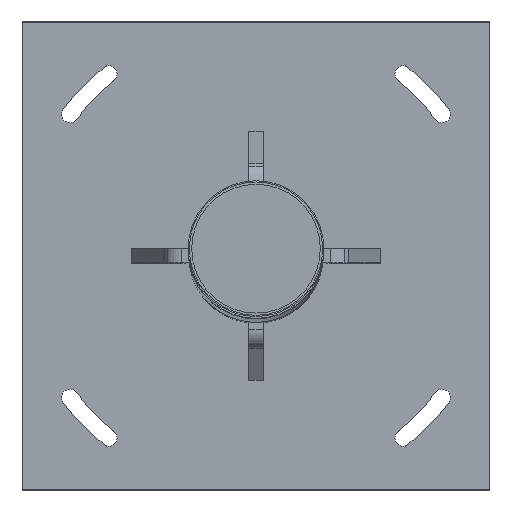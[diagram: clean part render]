
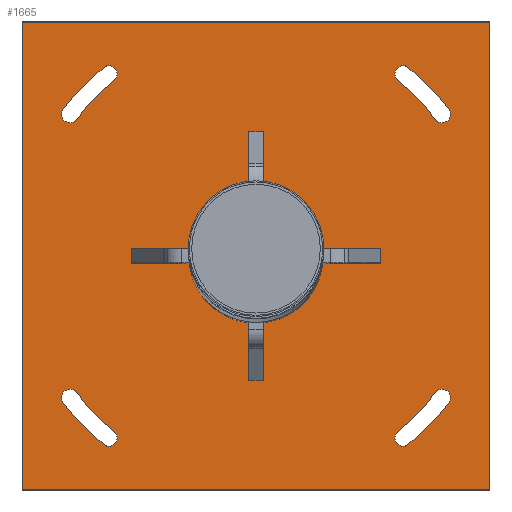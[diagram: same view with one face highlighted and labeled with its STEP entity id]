
A CAD part, top view. The second image highlights one B-rep face of the part: STEP entity #1665.
In plain terms, the highlighted planar face has unit normal (0, 0, 1).
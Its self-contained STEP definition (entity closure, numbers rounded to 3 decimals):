
#107=FACE_BOUND('',#300,.T.);
#108=FACE_BOUND('',#301,.T.);
#109=FACE_BOUND('',#302,.T.);
#110=FACE_BOUND('',#303,.T.);
#111=FACE_BOUND('',#304,.T.);
#125=PLANE('',#1825);
#194=FACE_OUTER_BOUND('',#299,.T.);
#299=EDGE_LOOP('',(#1213,#1214,#1215,#1216));
#300=EDGE_LOOP('',(#1217));
#301=EDGE_LOOP('',(#1218,#1219,#1220,#1221));
#302=EDGE_LOOP('',(#1222,#1223,#1224,#1225));
#303=EDGE_LOOP('',(#1226,#1227,#1228,#1229));
#304=EDGE_LOOP('',(#1230,#1231,#1232,#1233));
#416=LINE('',#2427,#553);
#419=LINE('',#2433,#556);
#422=LINE('',#2439,#559);
#425=LINE('',#2443,#562);
#553=VECTOR('',#2031,10.);
#556=VECTOR('',#2036,10.);
#559=VECTOR('',#2041,10.);
#562=VECTOR('',#2046,10.);
#671=CIRCLE('',#1771,207.);
#673=CIRCLE('',#1774,7.25);
#675=CIRCLE('',#1777,192.841);
#677=CIRCLE('',#1780,7.25);
#679=CIRCLE('',#1783,207.);
#681=CIRCLE('',#1786,7.25);
#683=CIRCLE('',#1789,192.841);
#685=CIRCLE('',#1792,7.25);
#687=CIRCLE('',#1795,207.);
#689=CIRCLE('',#1798,7.25);
#691=CIRCLE('',#1801,192.841);
#693=CIRCLE('',#1804,7.25);
#695=CIRCLE('',#1807,207.);
#697=CIRCLE('',#1810,7.25);
#699=CIRCLE('',#1813,192.841);
#701=CIRCLE('',#1816,7.25);
#703=CIRCLE('',#1819,50.);
#726=VERTEX_POINT('',#2319);
#727=VERTEX_POINT('',#2320);
#730=VERTEX_POINT('',#2328);
#732=VERTEX_POINT('',#2334);
#734=VERTEX_POINT('',#2343);
#735=VERTEX_POINT('',#2344);
#738=VERTEX_POINT('',#2352);
#740=VERTEX_POINT('',#2358);
#742=VERTEX_POINT('',#2367);
#743=VERTEX_POINT('',#2368);
#746=VERTEX_POINT('',#2376);
#748=VERTEX_POINT('',#2382);
#750=VERTEX_POINT('',#2391);
#751=VERTEX_POINT('',#2392);
#754=VERTEX_POINT('',#2400);
#756=VERTEX_POINT('',#2406);
#758=VERTEX_POINT('',#2415);
#762=VERTEX_POINT('',#2424);
#763=VERTEX_POINT('',#2426);
#765=VERTEX_POINT('',#2432);
#767=VERTEX_POINT('',#2438);
#885=EDGE_CURVE('',#726,#727,#671,.T.);
#889=EDGE_CURVE('',#727,#730,#673,.T.);
#892=EDGE_CURVE('',#730,#732,#675,.T.);
#895=EDGE_CURVE('',#732,#726,#677,.T.);
#897=EDGE_CURVE('',#734,#735,#679,.T.);
#901=EDGE_CURVE('',#735,#738,#681,.T.);
#904=EDGE_CURVE('',#738,#740,#683,.T.);
#907=EDGE_CURVE('',#740,#734,#685,.T.);
#909=EDGE_CURVE('',#742,#743,#687,.T.);
#913=EDGE_CURVE('',#743,#746,#689,.T.);
#916=EDGE_CURVE('',#746,#748,#691,.T.);
#919=EDGE_CURVE('',#748,#742,#693,.T.);
#921=EDGE_CURVE('',#750,#751,#695,.T.);
#925=EDGE_CURVE('',#751,#754,#697,.T.);
#928=EDGE_CURVE('',#754,#756,#699,.T.);
#931=EDGE_CURVE('',#756,#750,#701,.T.);
#933=EDGE_CURVE('',#758,#758,#703,.T.);
#938=EDGE_CURVE('',#763,#762,#416,.T.);
#941=EDGE_CURVE('',#765,#763,#419,.T.);
#944=EDGE_CURVE('',#767,#765,#422,.T.);
#947=EDGE_CURVE('',#762,#767,#425,.T.);
#1213=ORIENTED_EDGE('',*,*,#947,.T.);
#1214=ORIENTED_EDGE('',*,*,#944,.T.);
#1215=ORIENTED_EDGE('',*,*,#941,.T.);
#1216=ORIENTED_EDGE('',*,*,#938,.T.);
#1217=ORIENTED_EDGE('',*,*,#933,.T.);
#1218=ORIENTED_EDGE('',*,*,#928,.T.);
#1219=ORIENTED_EDGE('',*,*,#931,.T.);
#1220=ORIENTED_EDGE('',*,*,#921,.T.);
#1221=ORIENTED_EDGE('',*,*,#925,.T.);
#1222=ORIENTED_EDGE('',*,*,#916,.T.);
#1223=ORIENTED_EDGE('',*,*,#919,.T.);
#1224=ORIENTED_EDGE('',*,*,#909,.T.);
#1225=ORIENTED_EDGE('',*,*,#913,.T.);
#1226=ORIENTED_EDGE('',*,*,#904,.T.);
#1227=ORIENTED_EDGE('',*,*,#907,.T.);
#1228=ORIENTED_EDGE('',*,*,#897,.T.);
#1229=ORIENTED_EDGE('',*,*,#901,.T.);
#1230=ORIENTED_EDGE('',*,*,#892,.T.);
#1231=ORIENTED_EDGE('',*,*,#895,.T.);
#1232=ORIENTED_EDGE('',*,*,#885,.T.);
#1233=ORIENTED_EDGE('',*,*,#889,.T.);
#1665=ADVANCED_FACE('',(#194,#107,#108,#109,#110,#111),#125,.T.);
#1771=AXIS2_PLACEMENT_3D('',#2321,#1910,#1911);
#1774=AXIS2_PLACEMENT_3D('',#2329,#1918,#1919);
#1777=AXIS2_PLACEMENT_3D('',#2335,#1925,#1926);
#1780=AXIS2_PLACEMENT_3D('',#2340,#1932,#1933);
#1783=AXIS2_PLACEMENT_3D('',#2345,#1938,#1939);
#1786=AXIS2_PLACEMENT_3D('',#2353,#1946,#1947);
#1789=AXIS2_PLACEMENT_3D('',#2359,#1953,#1954);
#1792=AXIS2_PLACEMENT_3D('',#2364,#1960,#1961);
#1795=AXIS2_PLACEMENT_3D('',#2369,#1966,#1967);
#1798=AXIS2_PLACEMENT_3D('',#2377,#1974,#1975);
#1801=AXIS2_PLACEMENT_3D('',#2383,#1981,#1982);
#1804=AXIS2_PLACEMENT_3D('',#2388,#1988,#1989);
#1807=AXIS2_PLACEMENT_3D('',#2393,#1994,#1995);
#1810=AXIS2_PLACEMENT_3D('',#2401,#2002,#2003);
#1813=AXIS2_PLACEMENT_3D('',#2407,#2009,#2010);
#1816=AXIS2_PLACEMENT_3D('',#2412,#2016,#2017);
#1819=AXIS2_PLACEMENT_3D('',#2416,#2022,#2023);
#1825=AXIS2_PLACEMENT_3D('',#2444,#2047,#2048);
#1910=DIRECTION('center_axis',(0.,0.,-1.));
#1911=DIRECTION('ref_axis',(0.623,-0.782,0.));
#1918=DIRECTION('center_axis',(0.,0.,-1.));
#1919=DIRECTION('ref_axis',(-0.743,0.67,0.));
#1925=DIRECTION('center_axis',(0.,0.,1.));
#1926=DIRECTION('ref_axis',(0.625,-0.78,0.));
#1932=DIRECTION('center_axis',(0.,0.,-1.));
#1933=DIRECTION('ref_axis',(0.927,-0.374,0.));
#1938=DIRECTION('center_axis',(0.,0.,-1.));
#1939=DIRECTION('ref_axis',(0.801,0.599,0.));
#1946=DIRECTION('center_axis',(0.,0.,-1.));
#1947=DIRECTION('ref_axis',(-0.692,-0.722,0.));
#1953=DIRECTION('center_axis',(0.,0.,1.));
#1954=DIRECTION('ref_axis',(0.799,0.602,0.));
#1960=DIRECTION('center_axis',(0.,0.,-1.));
#1961=DIRECTION('ref_axis',(0.402,0.916,0.));
#1966=DIRECTION('center_axis',(0.,0.,-1.));
#1967=DIRECTION('ref_axis',(-0.801,-0.599,0.));
#1974=DIRECTION('center_axis',(0.,0.,-1.));
#1975=DIRECTION('ref_axis',(0.692,0.722,0.));
#1981=DIRECTION('center_axis',(0.,0.,1.));
#1982=DIRECTION('ref_axis',(-0.799,-0.602,0.));
#1988=DIRECTION('center_axis',(0.,0.,-1.));
#1989=DIRECTION('ref_axis',(-0.402,-0.916,0.));
#1994=DIRECTION('center_axis',(0.,0.,-1.));
#1995=DIRECTION('ref_axis',(-0.623,0.782,0.));
#2002=DIRECTION('center_axis',(0.,0.,-1.));
#2003=DIRECTION('ref_axis',(0.743,-0.67,0.));
#2009=DIRECTION('center_axis',(0.,0.,1.));
#2010=DIRECTION('ref_axis',(-0.625,0.78,0.));
#2016=DIRECTION('center_axis',(0.,0.,-1.));
#2017=DIRECTION('ref_axis',(-0.927,0.374,0.));
#2022=DIRECTION('center_axis',(0.,0.,-1.));
#2023=DIRECTION('ref_axis',(1.,0.,0.));
#2031=DIRECTION('',(-1.,0.,0.));
#2036=DIRECTION('',(0.,1.,0.));
#2041=DIRECTION('',(1.,0.,0.));
#2046=DIRECTION('',(0.,-1.,0.));
#2047=DIRECTION('center_axis',(0.,0.,1.));
#2048=DIRECTION('ref_axis',(1.,0.,0.));
#2319=CARTESIAN_POINT('',(165.773,-123.969,12.));
#2320=CARTESIAN_POINT('',(128.918,-161.954,12.));
#2321=CARTESIAN_POINT('Origin',(0.,0.,12.));
#2328=CARTESIAN_POINT('',(120.621,-150.46,12.));
#2329=CARTESIAN_POINT('Origin',(126.005,-155.315,12.));
#2334=CARTESIAN_POINT('',(154.033,-116.022,12.));
#2335=CARTESIAN_POINT('Origin',(0.,0.,12.));
#2340=CARTESIAN_POINT('Origin',(159.049,-121.258,12.));
#2343=CARTESIAN_POINT('',(128.918,161.954,12.));
#2344=CARTESIAN_POINT('',(165.773,123.969,12.));
#2345=CARTESIAN_POINT('Origin',(0.,0.,12.));
#2352=CARTESIAN_POINT('',(154.033,116.022,12.));
#2353=CARTESIAN_POINT('Origin',(159.049,121.258,12.));
#2358=CARTESIAN_POINT('',(120.621,150.46,12.));
#2359=CARTESIAN_POINT('Origin',(0.,0.,12.));
#2364=CARTESIAN_POINT('Origin',(126.005,155.315,12.));
#2367=CARTESIAN_POINT('',(-128.918,-161.954,12.));
#2368=CARTESIAN_POINT('',(-165.773,-123.969,12.));
#2369=CARTESIAN_POINT('Origin',(0.,0.,12.));
#2376=CARTESIAN_POINT('',(-154.033,-116.022,12.));
#2377=CARTESIAN_POINT('Origin',(-159.049,-121.258,12.));
#2382=CARTESIAN_POINT('',(-120.621,-150.46,12.));
#2383=CARTESIAN_POINT('Origin',(0.,0.,12.));
#2388=CARTESIAN_POINT('Origin',(-126.005,-155.315,12.));
#2391=CARTESIAN_POINT('',(-165.773,123.969,12.));
#2392=CARTESIAN_POINT('',(-128.918,161.954,12.));
#2393=CARTESIAN_POINT('Origin',(0.,0.,12.));
#2400=CARTESIAN_POINT('',(-120.621,150.46,12.));
#2401=CARTESIAN_POINT('Origin',(-126.005,155.315,12.));
#2406=CARTESIAN_POINT('',(-154.033,116.022,12.));
#2407=CARTESIAN_POINT('Origin',(0.,0.,12.));
#2412=CARTESIAN_POINT('Origin',(-159.049,121.258,12.));
#2415=CARTESIAN_POINT('',(-50.,0.,12.));
#2416=CARTESIAN_POINT('Origin',(0.,0.,12.));
#2424=CARTESIAN_POINT('',(-200.,200.,12.));
#2426=CARTESIAN_POINT('',(200.,200.,12.));
#2427=CARTESIAN_POINT('',(200.,200.,12.));
#2432=CARTESIAN_POINT('',(200.,-200.,12.));
#2433=CARTESIAN_POINT('',(200.,-200.,12.));
#2438=CARTESIAN_POINT('',(-200.,-200.,12.));
#2439=CARTESIAN_POINT('',(-200.,-200.,12.));
#2443=CARTESIAN_POINT('',(-200.,200.,12.));
#2444=CARTESIAN_POINT('Origin',(0.,0.,12.));
